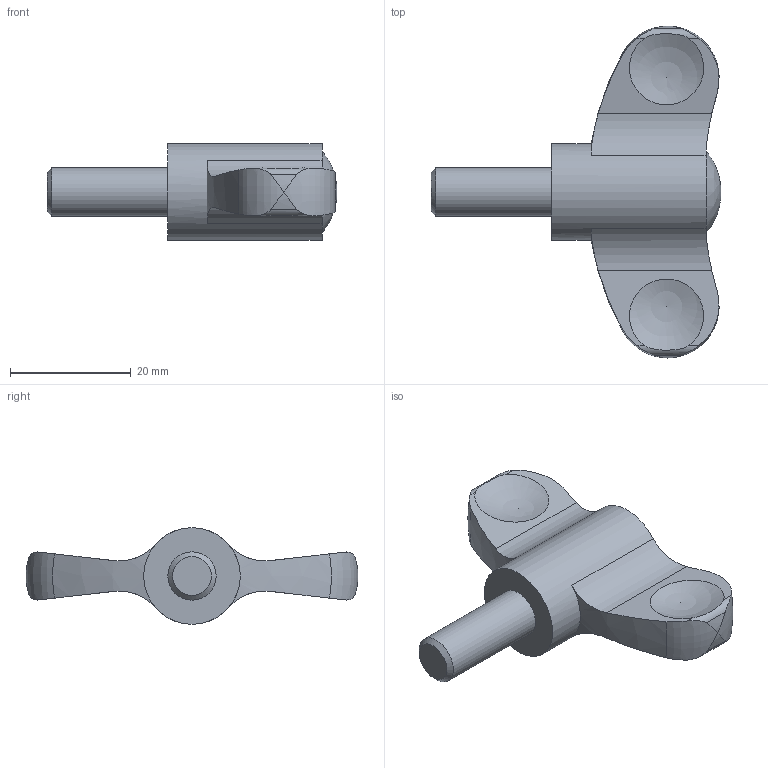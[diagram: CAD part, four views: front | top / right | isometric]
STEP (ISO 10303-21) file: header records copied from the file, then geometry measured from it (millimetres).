
FILE_DESCRIPTION( ( 'STEP AP203' ), '1' );
FILE_NAME( 'C:/Temp/Ganter_Step_05_03_2020/data/2_2/gn_633/Wing nut GN 633-55-M8-20-DRT.stp', '2020-03-05T12:20:52', ( 'License CC BY-ND 4.0' ), ( 'CADENAS' ), ' ', 'PARTsolutions', ' ' );
FILE_SCHEMA( ( 'CONFIG_CONTROL_DESIGN' ) );
Length unit declared in the file: millimetre
Products named in the file (1): _Wing nut GN 633-55-M8-20-DRT
Bounding box: 48 x 55 x 16 mm (x, y, z)
Volume: 10089.5 mm3; surface area: 3921.1 mm2
Topology: 1 solids, 1 shells, 31 faces, 97 edges, 64 vertices
Faces by surface type: cylinder 14, plane 6, bspline 4, sphere 4, torus 2, cone 1
Full cylindrical faces by diameter (mm): 8 x1, 16 x1
Entity records: 1486 total; most frequent: CARTESIAN_POINT 754, ORIENTED_EDGE 154, DIRECTION 110, EDGE_CURVE 77, VERTEX_POINT 59, AXIS2_PLACEMENT_3D 45, B_SPLINE_CURVE_WITH_KNOTS 40, EDGE_LOOP 36
